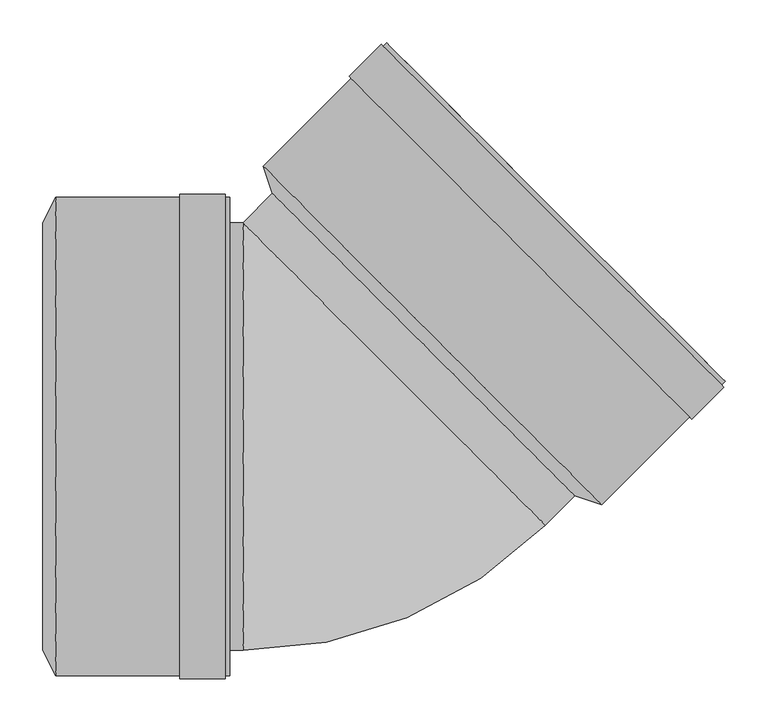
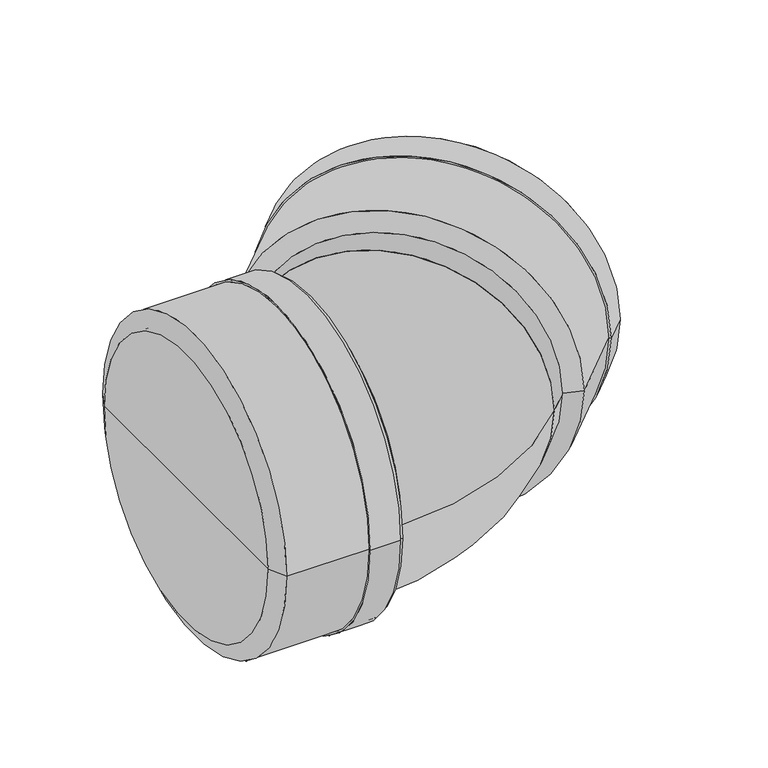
"""IFC4 building model written with IfcOpenShell, lengths in millimetres: pipe fitting geometry, pf_KGB : pf_KGB."""

from ifc_helpers import new_model, si_unit, point, frame, origin, origin_2d, place, context, project, spatial, polyline, circle_curve, ellipse_curve, trimmed, segment, composite_curve, outline, extrude, source, transform, mapped, element, save
from ifc_brep_helpers import plane_surface, cylinder_surface, revolved_surface, advanced_brep


def pipe_fitting_31d9e293(model_context):
    return source(origin(), model_context, "Body", "SolidModel", [
        advanced_brep(
        [(284.3276367, -69.2257539, 0.0), (-69.2257539, 284.3276367, 0.0), (-79.8323556, 316.2888632, 0.0), (316.2888632, -79.8323556, 0.0), (107.5509414, 107.5509414, 0.0), (460.4679359, 64.3467171, 0.0), (64.3467171, 460.4679359, 0.0), (85.6306312, 439.1840218, 0.0), (439.1840218, 85.6306312, 0.0), (60.2454978, 456.3667166, 0.0), (456.3667166, 60.2454978, 0.0), (57.8413347, 458.7708796, 0.0), (458.7708796, 57.8413347, 0.0), (20.435386, 421.3649309, 0.0), (421.3649309, 20.435386, 0.0), (22.839549, 418.9607679, 0.0), (418.9607679, 22.839549, 0.0), (295.0049491, -58.5484415, 0.0), (-58.5484415, 295.0049491, 0.0), (118.2282538, 118.2282538, 0.0)],
        [
            (0, 1, circle_curve(frame((107.5509414, 107.5509414, 0.0), z_axis=(0.7071067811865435, 0.7071067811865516, 0.0), x_axis=(-0.7071067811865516, 0.7071067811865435, 0.0)), 250.0)),
            (1, 2),
            (2, 3, circle_curve(frame((118.2282538, 118.2282538, 0.0), z_axis=(-0.7071067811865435, -0.7071067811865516, 0.0), x_axis=(-0.7071067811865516, 0.7071067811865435, 0.0)), 280.1)),
            (3, 0),
            (1, 0, circle_curve(frame((107.5509414, 107.5509414, 0.0), z_axis=(0.7071067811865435, 0.7071067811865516, 0.0), x_axis=(-0.7071067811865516, 0.7071067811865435, 0.0)), 250.0)),
            (3, 2, circle_curve(frame((118.2282538, 118.2282538, 0.0), z_axis=(-0.7071067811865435, -0.7071067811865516, 0.0), x_axis=(-0.7071067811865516, 0.7071067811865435, 0.0)), 280.1)),
            (4, 1),
            (0, 4),
            (5, 6, circle_curve(frame((262.4073265, 262.4073265, 0.0), z_axis=(0.7071067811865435, 0.7071067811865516, 0.0), x_axis=(-0.7071067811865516, 0.7071067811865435, 0.0)), 280.1)),
            (6, 7),
            (7, 8, circle_curve(frame((262.4073265, 262.4073265, 0.0), z_axis=(-0.7071067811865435, -0.7071067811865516, 0.0), x_axis=(-0.7071067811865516, 0.7071067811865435, 0.0)), 250.0)),
            (8, 5),
            (9, 10, circle_curve(frame((258.3061072, 258.3061072, 0.0), z_axis=(0.7071067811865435, 0.7071067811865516, 0.0), x_axis=(-0.7071067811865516, 0.7071067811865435, 0.0)), 280.1)),
            (10, 5),
            (5, 6, circle_curve(frame((262.4073265, 262.4073265, 0.0), z_axis=(-0.7071067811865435, -0.7071067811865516, 0.0), x_axis=(-0.7071067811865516, 0.7071067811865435, 0.0)), 280.1)),
            (6, 9),
            (11, 12, circle_curve(frame((258.3061072, 258.3061072, 0.0), z_axis=(0.7071067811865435, 0.7071067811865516, 0.0), x_axis=(-0.7071067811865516, 0.7071067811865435, 0.0)), 283.5)),
            (12, 10),
            (9, 11),
            (13, 14, circle_curve(frame((220.9001584, 220.9001584, 0.0), z_axis=(0.7071067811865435, 0.7071067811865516, 0.0), x_axis=(-0.7071067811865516, 0.7071067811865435, 0.0)), 283.5)),
            (14, 12),
            (11, 13),
            (15, 16, circle_curve(frame((220.9001584, 220.9001584, 0.0), z_axis=(0.7071067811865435, 0.7071067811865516, 0.0), x_axis=(-0.7071067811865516, 0.7071067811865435, 0.0)), 280.1)),
            (16, 14),
            (13, 15),
            (8, 7, circle_curve(frame((262.4073265, 262.4073265, 0.0), z_axis=(-0.7071067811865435, -0.7071067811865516, 0.0), x_axis=(-0.7071067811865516, 0.7071067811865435, 0.0)), 250.0)),
            (10, 9, circle_curve(frame((258.3061072, 258.3061072, 0.0), z_axis=(0.7071067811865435, 0.7071067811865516, 0.0), x_axis=(-0.7071067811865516, 0.7071067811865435, 0.0)), 280.1)),
            (12, 11, circle_curve(frame((258.3061072, 258.3061072, 0.0), z_axis=(0.7071067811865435, 0.7071067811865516, 0.0), x_axis=(-0.7071067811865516, 0.7071067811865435, 0.0)), 283.5)),
            (14, 13, circle_curve(frame((220.9001584, 220.9001584, 0.0), z_axis=(0.7071067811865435, 0.7071067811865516, 0.0), x_axis=(-0.7071067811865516, 0.7071067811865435, 0.0)), 283.5)),
            (16, 15, circle_curve(frame((220.9001584, 220.9001584, 0.0), z_axis=(0.7071067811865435, 0.7071067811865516, 0.0), x_axis=(-0.7071067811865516, 0.7071067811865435, 0.0)), 280.1)),
            (2, 15),
            (16, 3),
            (17, 18, circle_curve(frame((118.2282538, 118.2282538, 0.0), z_axis=(0.7071067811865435, 0.7071067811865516, 0.0), x_axis=(-0.7071067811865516, 0.7071067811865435, 0.0)), 250.0)),
            (18, 19),
            (19, 17),
            (18, 17, circle_curve(frame((118.2282538, 118.2282538, 0.0), z_axis=(0.7071067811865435, 0.7071067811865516, 0.0), x_axis=(-0.7071067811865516, 0.7071067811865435, 0.0)), 250.0)),
            (7, 18),
            (17, 8),
        ],
        [
            revolved_surface(polyline([(-79.8323556, 316.2888632, 0.0), (-69.2257539, 284.3276367, 0.0)]), (107.5509414, 107.5509414, 0.0), (-0.7071067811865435, -0.7071067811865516, 0.0)),
            plane_surface(frame((107.5509414, 107.5509414, 0.0), z_axis=(-0.7071067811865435, -0.7071067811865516, 0.0), x_axis=(-0.7071067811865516, 0.7071067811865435, 0.0))),
            plane_surface(frame((262.4073265, 262.4073265, 0.0), z_axis=(0.7071067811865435, 0.7071067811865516, 0.0), x_axis=(-0.7071067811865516, 0.7071067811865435, 0.0))),
            cylinder_surface(frame((107.5509414, 107.5509414, 0.0), z_axis=(-0.7071067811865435, -0.7071067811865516, 0.0), x_axis=(-0.7071067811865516, 0.7071067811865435, 0.0)), 280.1),
            plane_surface(frame((258.3061072, 258.3061072, 0.0), z_axis=(0.7071067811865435, 0.7071067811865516, 0.0), x_axis=(-0.7071067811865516, 0.7071067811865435, 0.0))),
            cylinder_surface(frame((107.5509414, 107.5509414, 0.0), z_axis=(-0.7071067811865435, -0.7071067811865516, 0.0), x_axis=(-0.7071067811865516, 0.7071067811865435, 0.0)), 283.5),
            plane_surface(frame((220.9001584, 220.9001584, 0.0), z_axis=(-0.7071067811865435, -0.7071067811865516, 0.0), x_axis=(-0.7071067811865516, 0.7071067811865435, 0.0))),
            plane_surface(frame((118.2282538, 118.2282538, 0.0), z_axis=(0.7071067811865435, 0.7071067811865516, 0.0), x_axis=(-0.7071067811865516, 0.7071067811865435, 0.0))),
            revolved_surface(polyline([(-58.54844149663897, 295.0049490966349, 0.0), (85.63063120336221, 439.18402179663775, 0.0)]), (107.5509414, 107.5509414, 0.0), (-0.7071067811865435, -0.7071067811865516, 0.0)),
        ],
        [
            (0, [[1, 2, 3, 4]]),
            (0, [[5, -4, 6, -2]]),
            (1, [[7, -1, 8]]),
            (1, [[-8, -5, -7]]),
            (2, [[9, 10, 11, 12]]),
            (3, [[13, 14, 15, 16]]),
            (4, [[17, 18, -13, 19]]),
            (5, [[20, 21, -17, 22]]),
            (6, [[23, 24, -20, 25]]),
            (2, [[-15, -12, 26, -10]]),
            (3, [[27, -16, -9, -14]]),
            (4, [[28, -19, -27, -18]]),
            (5, [[29, -22, -28, -21]]),
            (6, [[30, -25, -29, -24]]),
            (3, [[-3, 31, -30, 32]]),
            (3, [[-6, -32, -23, -31]]),
            (7, [[33, 34, 35]]),
            (7, [[36, -35, -34]]),
            (8, [[-11, 37, -33, 38]]),
            (8, [[-26, -38, -36, -37]]),
        ],
    ),
        advanced_brep(
        [(-337.8, -250.0, 0.0), (-337.8, 250.0, 0.0), (-322.7, 280.1, 0.0), (-322.7, -280.1, 0.0), (-337.8, 0.0, 0.0), (-118.8, -280.1, 0.0), (-118.8, 280.1, 0.0), (-118.8, 250.0, 0.0), (-118.8, -250.0, 0.0), (-124.6, 280.1, 0.0), (-124.6, -280.1, 0.0), (-124.6, 283.5, 0.0), (-124.6, -283.5, 0.0), (-177.5, 283.5, 0.0), (-177.5, -283.5, 0.0), (-177.5, 280.1, 0.0), (-177.5, -280.1, 0.0), (-322.7, -250.0, 0.0), (-322.7, 250.0, 0.0), (-322.7, 0.0, 0.0)],
        [
            (0, 1, circle_curve(frame((-337.8, 0.0, 0.0), z_axis=(1.0, 0.0, 0.0), x_axis=(0.0, 1.0, 0.0)), 250.0)),
            (1, 2),
            (2, 3, circle_curve(frame((-322.7, 0.0, 0.0), z_axis=(-1.0, 0.0, 0.0), x_axis=(0.0, 1.0, 0.0)), 280.1)),
            (3, 0),
            (1, 0, circle_curve(frame((-337.8, 0.0, 0.0), z_axis=(1.0, 0.0, 0.0), x_axis=(0.0, 1.0, 0.0)), 250.0)),
            (3, 2, circle_curve(frame((-322.7, 0.0, 0.0), z_axis=(-1.0, 0.0, 0.0), x_axis=(0.0, 1.0, 0.0)), 280.1)),
            (4, 1),
            (0, 4),
            (5, 6, circle_curve(frame((-118.8, 0.0, 0.0), z_axis=(1.0, 0.0, 0.0), x_axis=(0.0, 1.0, 0.0)), 280.1)),
            (6, 7),
            (7, 8, circle_curve(frame((-118.8, 0.0, 0.0), z_axis=(-1.0, 0.0, 0.0), x_axis=(0.0, 1.0, 0.0)), 250.0)),
            (8, 5),
            (9, 10, circle_curve(frame((-124.6, 0.0, 0.0), z_axis=(1.0, 0.0, 0.0), x_axis=(0.0, 1.0, 0.0)), 280.1)),
            (10, 5),
            (5, 6, circle_curve(frame((-118.8, 0.0, 0.0), z_axis=(-1.0, 0.0, 0.0), x_axis=(0.0, 1.0, 0.0)), 280.1)),
            (6, 9),
            (11, 12, circle_curve(frame((-124.6, 0.0, 0.0), z_axis=(1.0, 0.0, 0.0), x_axis=(0.0, 1.0, 0.0)), 283.5)),
            (12, 10),
            (9, 11),
            (13, 14, circle_curve(frame((-177.5, 0.0, 0.0), z_axis=(1.0, 0.0, 0.0), x_axis=(0.0, 1.0, 0.0)), 283.5)),
            (14, 12),
            (11, 13),
            (15, 16, circle_curve(frame((-177.5, 0.0, 0.0), z_axis=(1.0, 0.0, 0.0), x_axis=(0.0, 1.0, 0.0)), 280.1)),
            (16, 14),
            (13, 15),
            (8, 7, circle_curve(frame((-118.8, 0.0, 0.0), z_axis=(-1.0, 0.0, 0.0), x_axis=(0.0, 1.0, 0.0)), 250.0)),
            (10, 9, circle_curve(frame((-124.6, 0.0, 0.0), z_axis=(1.0, 0.0, 0.0), x_axis=(0.0, 1.0, 0.0)), 280.1)),
            (12, 11, circle_curve(frame((-124.6, 0.0, 0.0), z_axis=(1.0, 0.0, 0.0), x_axis=(0.0, 1.0, 0.0)), 283.5)),
            (14, 13, circle_curve(frame((-177.5, 0.0, 0.0), z_axis=(1.0, 0.0, 0.0), x_axis=(0.0, 1.0, 0.0)), 283.5)),
            (16, 15, circle_curve(frame((-177.5, 0.0, 0.0), z_axis=(1.0, 0.0, 0.0), x_axis=(0.0, 1.0, 0.0)), 280.1)),
            (2, 15),
            (16, 3),
            (17, 18, circle_curve(frame((-322.7, 0.0, 0.0), z_axis=(1.0, 0.0, 0.0), x_axis=(0.0, 1.0, 0.0)), 250.0)),
            (18, 19),
            (19, 17),
            (18, 17, circle_curve(frame((-322.7, 0.0, 0.0), z_axis=(1.0, 0.0, 0.0), x_axis=(0.0, 1.0, 0.0)), 250.0)),
            (7, 18),
            (17, 8),
        ],
        [
            revolved_surface(polyline([(-322.7, 280.1, 0.0), (-337.8, 250.0, 0.0)]), (-337.8, 0.0, 0.0), (-1.0, 0.0, 0.0)),
            plane_surface(frame((-337.8, 0.0, 0.0), z_axis=(-1.0, 0.0, 0.0), x_axis=(0.0, 1.0, 0.0))),
            plane_surface(frame((-118.8, 0.0, 0.0), z_axis=(1.0, 0.0, 0.0), x_axis=(0.0, 1.0, 0.0))),
            cylinder_surface(frame((-337.8, 0.0, 0.0), z_axis=(-1.0, 0.0, 0.0), x_axis=(0.0, 1.0, 0.0)), 280.1),
            plane_surface(frame((-124.6, 0.0, 0.0), z_axis=(1.0, 0.0, 0.0), x_axis=(0.0, 1.0, 0.0))),
            cylinder_surface(frame((-337.8, 0.0, 0.0), z_axis=(-1.0, 0.0, 0.0), x_axis=(0.0, 1.0, 0.0)), 283.5),
            plane_surface(frame((-177.5, 0.0, 0.0), z_axis=(-1.0, 0.0, 0.0), x_axis=(0.0, 1.0, 0.0))),
            plane_surface(frame((-322.7, 0.0, 0.0), z_axis=(1.0, 0.0, 0.0), x_axis=(0.0, 1.0, 0.0))),
            revolved_surface(polyline([(-322.7, 250.0, 0.0), (-118.80000000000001, 250.0, 0.0)]), (-337.8, 0.0, 0.0), (-1.0, 0.0, 0.0)),
        ],
        [
            (0, [[1, 2, 3, 4]]),
            (0, [[5, -4, 6, -2]]),
            (1, [[7, -1, 8]]),
            (1, [[-8, -5, -7]]),
            (2, [[9, 10, 11, 12]]),
            (3, [[13, 14, 15, 16]]),
            (4, [[17, 18, -13, 19]]),
            (5, [[20, 21, -17, 22]]),
            (6, [[23, 24, -20, 25]]),
            (2, [[-15, -12, 26, -10]]),
            (3, [[27, -16, -9, -14]]),
            (4, [[28, -19, -27, -18]]),
            (5, [[29, -22, -28, -21]]),
            (6, [[30, -25, -29, -24]]),
            (3, [[-3, 31, -30, 32]]),
            (3, [[-6, -32, -23, -31]]),
            (7, [[33, 34, 35]]),
            (7, [[36, -35, -34]]),
            (8, [[-11, 37, -33, 38]]),
            (8, [[-26, -38, -36, -37]]),
        ],
    ),
        extrude(outline(composite_curve([segment(trimmed(circle_curve(origin_2d(), 250.0), [point((0.0, -250.0))], [point((0.0, 250.0))], False, "CARTESIAN"), True, "CONTINUOUS"), segment(trimmed(circle_curve(origin_2d(), 250.0), [point((0.0, 250.0))], [point((0.0, -250.0))], False, "CARTESIAN"), True, "CONTINUOUS")], self_intersect=False)), frame((73.2233047, 73.2233047, 0.0), z_axis=(0.7071067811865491, 0.7071067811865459, 0.0), x_axis=(0.0, 0.0, 1.0)), (0.0, 0.0, 1.0), 48.5466094),
        extrude(outline(composite_curve([segment(trimmed(circle_curve(origin_2d(), 250.0), [point((-250.0, 0.0))], [point((250.0, 0.0))], False, "CARTESIAN"), True, "CONTINUOUS"), segment(trimmed(circle_curve(origin_2d(), 250.0), [point((250.0, 0.0))], [point((-250.0, 0.0))], False, "CARTESIAN"), True, "CONTINUOUS")], self_intersect=False)), frame((-322.7, 0.0, 0.0), z_axis=(1.0, 0.0, 0.0), x_axis=(0.0, 1.0, 0.0)), (0.0, 0.0, 1.0), 219.1466094),
        advanced_brep(
        [(-103.5533906, -250.0, 0.0), (-103.5533906, 250.0, 0.0), (250.0, -103.5533906, 0.0)],
        [
            (0, 1, circle_curve(frame((-103.5533906, 0.0, 0.0), z_axis=(-1.0, 0.0, 0.0), x_axis=(0.0, 1.0, 0.0)), 250.0)),
            (1, 0, circle_curve(frame((-103.5533906, 0.0, 0.0), z_axis=(-1.0, 0.0, 0.0), x_axis=(0.0, 1.0, 0.0)), 250.0)),
            (2, 1, circle_curve(frame((73.2233047, 73.2233047, 0.0), z_axis=(0.7071067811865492, 0.7071067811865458, 0.0), x_axis=(-0.7071067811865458, 0.7071067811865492, 0.0)), 250.0)),
            (1, 2, circle_curve(frame((73.2233047, 73.2233047, 0.0), z_axis=(0.7071067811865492, 0.7071067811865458, 0.0), x_axis=(-0.7071067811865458, 0.7071067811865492, 0.0)), 250.0)),
            (2, 0, circle_curve(frame((-103.5533906, 250.0, 0.0), z_axis=(0.0, 0.0, -1.0), x_axis=(0.0, -1.0, 0.0)), 500.0)),
        ],
        [
            plane_surface(frame((-103.5533906, 250.0, -14.8), z_axis=(-1.0, 0.0, 0.0), x_axis=(0.0, -1.0, 0.0))),
            plane_surface(frame((-103.5533906, 250.0, -14.8), z_axis=(0.7071067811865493, 0.7071067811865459, 0.0), x_axis=(0.7071067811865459, -0.7071067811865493, 0.0))),
            revolved_surface(trimmed(ellipse_curve(frame((-103.5533906, 0.0, 0.0), z_axis=(1.0, 0.0, 0.0), x_axis=(0.0, 1.0, 0.0)), 250.0, 250.0), [point((-103.5533906, -250.0, 0.0))], [point((-103.5533906, 250.0, 0.0))], True, "CARTESIAN"), (-103.5533906, 250.0, -14.8), (0.0, 0.0, -1.0)),
            revolved_surface(trimmed(ellipse_curve(frame((-103.5533906, 0.0, 0.0), z_axis=(1.0, 0.0, 0.0), x_axis=(0.0, 1.0, 0.0)), 250.0, 250.0), [point((-103.5533906, 250.0, 0.0))], [point((-103.5533906, -250.0, 0.0))], True, "CARTESIAN"), (-103.5533906, 250.0, -14.8), (0.0, 0.0, -1.0)),
        ],
        [
            (0, [[1, 2]]),
            (1, [[3, 4]]),
            (2, [[5, -2, -3]]),
            (3, [[-1, -5, -4]]),
        ],
    ),
    ])


if __name__ == "__main__":
    model = new_model("IFC4")
    model_context = context("Model", 3, world=origin())
    ifc_project = project(units=[si_unit("LENGTHUNIT", "METRE", prefix="MILLI")], contexts=[model_context])
    site = spatial("IfcSite", under=ifc_project)
    building = spatial("IfcBuilding", under=site)
    placement = place(None, origin())
    pipe_fitting_shape = pipe_fitting_31d9e293(model_context)
    element("IfcPipeFitting", 1, ObjectType="pf_KGB : pf_KGB", at=placement, inside=building, context=model_context, shape_type="MappedRepresentation", body=[
        mapped(pipe_fitting_shape, transform((0.0, 0.0, 0.0), x_axis=(1.0, 0.0, 0.0), y_axis=(0.0, 1.0, 0.0), z_axis=(0.0, 0.0, 1.0))),
    ])
    save(model, "model.ifc")
